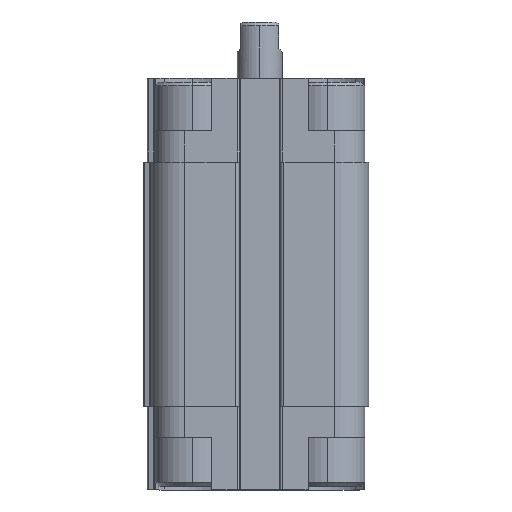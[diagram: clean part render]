
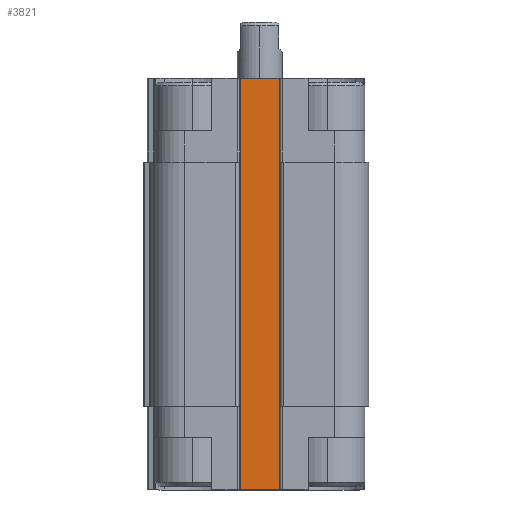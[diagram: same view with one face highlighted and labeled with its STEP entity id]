
A CAD part, left-side view. The second image highlights one B-rep face of the part: STEP entity #3821.
In plain terms, the highlighted planar face has unit normal (-1, 0, 0).
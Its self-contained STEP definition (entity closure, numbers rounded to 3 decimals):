
#73 = EDGE_CURVE ( 'NONE', #1157, #4870, #4756, .T. ) ;
#75 = EDGE_CURVE ( 'NONE', #1157, #3574, #4762, .T. ) ;
#76 = EDGE_CURVE ( 'NONE', #4865, #3574, #4758, .T. ) ;
#1157 = VERTEX_POINT ( 'NONE', #7532 ) ;
#1270 = ORIENTED_EDGE ( 'NONE', *, *, #1745, .F. ) ;
#1271 = ORIENTED_EDGE ( 'NONE', *, *, #73, .F. ) ;
#1272 = ORIENTED_EDGE ( 'NONE', *, *, #75, .T. ) ;
#1273 = ORIENTED_EDGE ( 'NONE', *, *, #76, .F. ) ;
#1745 = EDGE_CURVE ( 'NONE', #4870, #4865, #7260, .T. ) ;
#2770 = CARTESIAN_POINT ( 'NONE',  ( -10.2, 0., -11.15 ) ) ;
#2771 = DIRECTION ( 'NONE',  ( 0., 1., 0. ) ) ;
#3574 = VERTEX_POINT ( 'NONE', #10470 ) ;
#3821 = ADVANCED_FACE ( 'NONE', ( #5435 ), #5831, .F. ) ;
#4595 = EDGE_LOOP ( 'NONE', ( #1270, #1271, #1272, #1273 ) ) ;
#4756 = LINE ( 'NONE', #9819, #4761 ) ;
#4758 = LINE ( 'NONE', #9809, #4766 ) ;
#4761 = VECTOR ( 'NONE', #9811, 1000. ) ;
#4762 = LINE ( 'NONE', #9812, #4764 ) ;
#4764 = VECTOR ( 'NONE', #9814, 1000. ) ;
#4766 = VECTOR ( 'NONE', #9804, 1000. ) ;
#4865 = VERTEX_POINT ( 'NONE', #9345 ) ;
#4870 = VERTEX_POINT ( 'NONE', #9350 ) ;
#5435 = FACE_OUTER_BOUND ( 'NONE', #4595, .T. ) ;
#5659 = AXIS2_PLACEMENT_3D ( 'NONE', #5826, #5834, #5835 ) ;
#5826 = CARTESIAN_POINT ( 'NONE',  ( -10.2, -2.6, -11.15 ) ) ;
#5831 = PLANE ( 'NONE',  #5659 ) ;
#5834 = DIRECTION ( 'NONE',  ( 1., 0., 0. ) ) ;
#5835 = DIRECTION ( 'NONE',  ( 0., 1., 0. ) ) ;
#7260 = LINE ( 'NONE', #2770, #7262 ) ;
#7262 = VECTOR ( 'NONE', #2771, 1000. ) ;
#7532 = CARTESIAN_POINT ( 'NONE',  ( -10.2, -2.6, 43.65 ) ) ;
#9345 = CARTESIAN_POINT ( 'NONE',  ( -10.2, 2.6, -11.15 ) ) ;
#9350 = CARTESIAN_POINT ( 'NONE',  ( -10.2, -2.6, -11.15 ) ) ;
#9804 = DIRECTION ( 'NONE',  ( 0., 0., 1. ) ) ;
#9809 = CARTESIAN_POINT ( 'NONE',  ( -10.2, 2.6, 16.25 ) ) ;
#9811 = DIRECTION ( 'NONE',  ( 0., 0., -1. ) ) ;
#9812 = CARTESIAN_POINT ( 'NONE',  ( -10.2, -2.6, 43.65 ) ) ;
#9814 = DIRECTION ( 'NONE',  ( 0., 1., 0. ) ) ;
#9819 = CARTESIAN_POINT ( 'NONE',  ( -10.2, -2.6, 16.25 ) ) ;
#10470 = CARTESIAN_POINT ( 'NONE',  ( -10.2, 2.6, 43.65 ) ) ;
